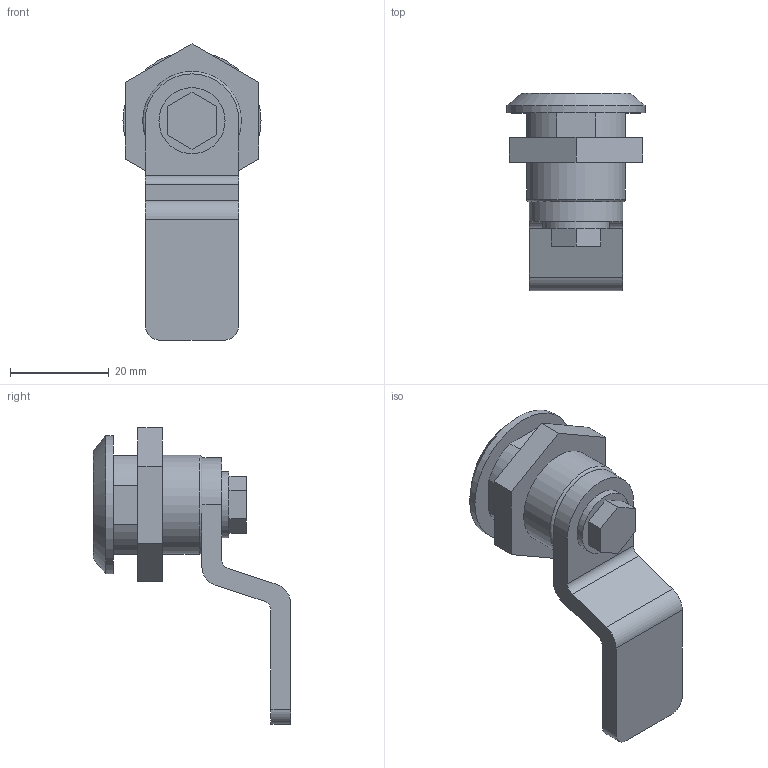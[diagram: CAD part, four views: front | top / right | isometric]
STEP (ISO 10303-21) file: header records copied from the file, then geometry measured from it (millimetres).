
FILE_DESCRIPTION (( 'STEP AP214' ), '1' );
FILE_NAME ('F30032.step', '2024-12-03T16:16:13', ( '' ), ( '' ), 'SwSTEP 2.0', 'SolidWorks 2023', '' );
FILE_SCHEMA (( 'AUTOMOTIVE_DESIGN' ));
Length unit declared in the file: millimetre
Products named in the file (1): F30032
Bounding box: 28 x 40 x 60.09 mm (x, y, z)
Volume: 14440 mm3; surface area: 6006.5 mm2
Topology: 1 solids, 1 shells, 58 faces, 143 edges, 94 vertices
Faces by surface type: plane 37, cylinder 19, cone 1, torus 1
Full cylindrical faces by diameter (mm): 3 x1, 13.4 x1, 20 x1, 28 x1
Entity records: 1699 total; most frequent: DIRECTION 294, CARTESIAN_POINT 288, ORIENTED_EDGE 272, EDGE_CURVE 136, AXIS2_PLACEMENT_3D 99, VECTOR 96, LINE 96, VERTEX_POINT 93
